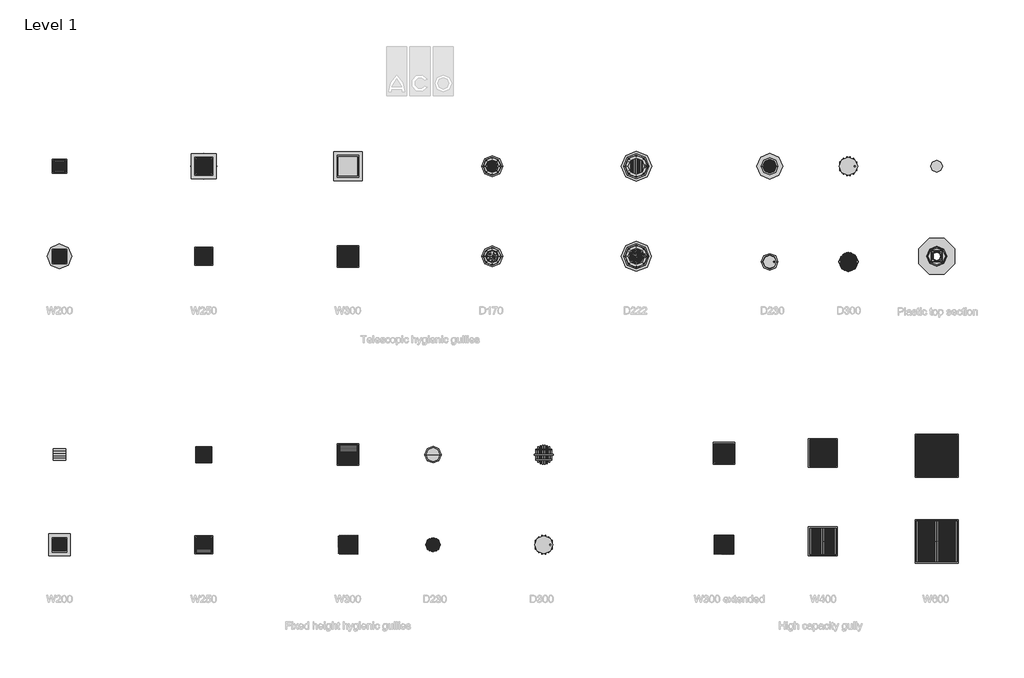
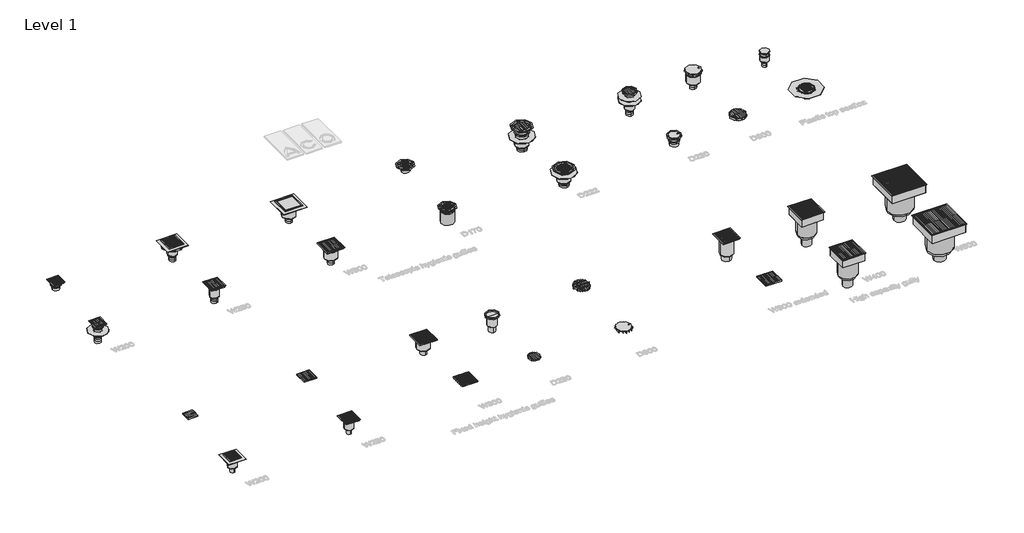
# One storey, part 1 of 5: 84 sanitary terminals, 1 damper.
"""IFC4 building model written with IfcOpenShell, lengths in millimetres."""

from ifc_helpers import new_model, si_unit, origin, place, context, project, spatial, transform, mapped, element, save
from components import std_nested_5fa89a83, sanitary_terminal_82e209ba, std_nested_0eeefa5e, std_nested_6499384f, std_nested_efb698b0, std_nested_4763630c, std_nested_b19227e2, std_nested_4e44c4c3, std_nested_489a93e3, std_nested_592c855f, std_nested_7deef7a1, std_nested_e0442021, std_nested_d5818558, std_nested_d116548a, std_nested_70ec9771, std_nested_57f2950a, std_nested_2ee354ad, std_nested_b8717db3, std_nested_406fe5f1, std_nested_98c6a3e6, std_nested_e2511e1a, std_nested_275881f0, std_nested_45a2f4f4, std_nested_918f101b, std_nested_27eed14b, std_nested_ff023d64, std_nested_d4b4db04, std_nested_1c124e65, std_nested_c48ed7b9, std_nested_3e81e737, std_nested_d3c4a1f5, std_nested_5fa55fd6, std_nested_ba545059, std_nested_f74d5a0c, std_nested_dd35c763, std_nested_3aef32b5, std_nested_7e2e888d, std_nested_04520186, std_nested_2d5d525a, std_nested_8b3f8c66, std_nested_b8d969d0, std_nested_69cb9c66, std_nested_0e59ff56, std_nested_2204cd7f, std_nested_bb84bd4d, std_nested_b2754624, std_nested_b7c3fa1a, std_nested_97aef0d8, std_nested_c1a20db4, std_nested_652eae4b, std_nested_9901e309, std_nested_b282f1d5, std_nested_8494176b, std_nested_cbf8674b, std_nested_f3fa0707, std_nested_9cee5a2e, std_nested_a31448ca, std_nested_245f124b

model = new_model("IFC4")

# Units and contexts
model_context = context("Model", 3, world=origin())
ifc_project = project(units=[si_unit("LENGTHUNIT", "METRE", prefix="MILLI")], contexts=[model_context])

# Site, building, storey
site = spatial("IfcSite", under=ifc_project)
building = spatial("IfcBuilding", under=site)
storey = spatial("IfcBuildingStorey", under=building, Name="Level 1", Elevation=0.0)

# Damper
placement = place(None, origin())
std_nested_shape = std_nested_5fa89a83(model_context)
element("IfcDamper", 1, ObjectType="ZZZ_do_not_use_PIA_GEN_UN_fire resistant kit for hygienic gullies_ACO : std (nested)", at=placement, inside=storey, context=model_context, shape_type="MappedRepresentation", body=[
    mapped(std_nested_shape, transform((2000.0, -1800.0, -60.0), x_axis=(1.0, 0.0, 0.0), y_axis=(0.0, 1.0, 0.0), z_axis=(0.0, 0.0, 1.0))),
])

# Sanitary terminals
sanitary_terminal_shape = sanitary_terminal_82e209ba(model_context)
element("IfcSanitaryTerminal", 2, ObjectType="PF_ST_UN_fixed height hygienic gully D230_ACO : D230 grade 1.4301 fixed-height round hygienic gully 157 outlet 110", at=placement, inside=storey, context=model_context, shape_type="MappedRepresentation", body=[
    mapped(sanitary_terminal_shape, transform((1180.0, -5800.0, 0.0), x_axis=(1.0, 0.0, 0.0), y_axis=(0.0, 1.0, 0.0), z_axis=(0.0, 0.0, 1.0))),
])
element("IfcSanitaryTerminal", 3, ObjectType="PF_ST_UN_fixed height hygienic gully D230_ACO : D230 grade 1.4404 fixed-height round hygienic gully 157 outlet 110", at=placement, inside=storey, context=model_context, shape_type="MappedRepresentation", body=[
    mapped(sanitary_terminal_shape, transform((1180.0, -4550.0, 0.0), x_axis=(1.0, 0.0, 0.0), y_axis=(0.0, 1.0, 0.0), z_axis=(0.0, 0.0, 1.0))),
])
element("IfcSanitaryTerminal", 4, ObjectType="PF_ST_UN_fixed height hygienic gully W200_ACO : W200 grade 1.4301 fixed height hygienic gully 142 outlet 75", at=placement, inside=storey, context=model_context, shape_type="MappedRepresentation", body=[
    mapped(sanitary_terminal_shape, transform((-4000.0, -4550.0, 0.0), x_axis=(1.0, 0.0, 0.0), y_axis=(0.0, 1.0, 0.0), z_axis=(0.0, 0.0, 1.0))),
])
element("IfcSanitaryTerminal", 5, ObjectType="PF_ST_UN_fixed height hygienic gully W200_ACO : W200 grade 1.4404 fixed height hygienic gully 157 outlet 75", at=placement, inside=storey, context=model_context, shape_type="MappedRepresentation", body=[
    mapped(sanitary_terminal_shape, transform((-4000.0, -5800.0, 0.0), x_axis=(1.0, 0.0, 0.0), y_axis=(0.0, 1.0, 0.0), z_axis=(0.0, 0.0, 1.0))),
])
element("IfcSanitaryTerminal", 6, ObjectType="PF_ST_UN_fixed height hygienic gully W250_ACO : W250 grade 1.4301 fixed height hygienic gully 157 outlet 75", at=placement, inside=storey, context=model_context, shape_type="MappedRepresentation", body=[
    mapped(sanitary_terminal_shape, transform((-2000.0, -5800.0, 0.0), x_axis=(1.0, 0.0, 0.0), y_axis=(0.0, 1.0, 0.0), z_axis=(0.0, 0.0, 1.0))),
])
element("IfcSanitaryTerminal", 7, ObjectType="PF_ST_UN_fixed height hygienic gully W250_ACO : W250 grade 1.4301 fixed height hygienic gully 157 outlet 75", at=placement, inside=storey, context=model_context, shape_type="MappedRepresentation", body=[
    mapped(sanitary_terminal_shape, transform((-2000.0, -4550.0, 0.0), x_axis=(1.0, 0.0, 0.0), y_axis=(0.0, 1.0, 0.0), z_axis=(0.0, 0.0, 1.0))),
])
element("IfcSanitaryTerminal", 8, ObjectType="PF_ST_UN_fixed height hygienic gully W300_ACO : W300 grade 1.4301 fixed height hygienic gully 218 outlet 110", at=placement, inside=storey, context=model_context, shape_type="MappedRepresentation", body=[
    mapped(sanitary_terminal_shape, transform((0.0, -5800.0, 0.0), x_axis=(1.0, 0.0, 0.0), y_axis=(0.0, 1.0, 0.0), z_axis=(0.0, 0.0, 1.0))),
])
element("IfcSanitaryTerminal", 9, ObjectType="PF_ST_UN_fixed height hygienic gully W300_ACO : W300 grade 1.4301 fixed height hygienic gully 218 outlet 110", at=placement, inside=storey, context=model_context, shape_type="MappedRepresentation", body=[
    mapped(sanitary_terminal_shape, transform((0.0, -4550.0, 0.0), x_axis=(1.0, 0.0, 0.0), y_axis=(0.0, 1.0, 0.0), z_axis=(0.0, 0.0, 1.0))),
])
element("IfcSanitaryTerminal", 10, ObjectType="PF_ST_UN_hygienic high capacity gully 315_ACO : W400 grade 1.4301 hygienic high capacity gully outlet 160", at=placement, inside=storey, context=model_context, shape_type="MappedRepresentation", body=[
    mapped(sanitary_terminal_shape, transform((6587.2821373, -5752.5332662, 0.0), x_axis=(1.0, 0.0, 0.0), y_axis=(0.0, 1.0, 0.0), z_axis=(0.0, 0.0, 1.0))),
])
element("IfcSanitaryTerminal", 11, ObjectType="PF_ST_UN_hygienic high capacity gully 315_ACO : W400 grade 1.4404 hygienic high capacity gully outlet 160", at=placement, inside=storey, context=model_context, shape_type="MappedRepresentation", body=[
    mapped(sanitary_terminal_shape, transform((6587.2821373, -4526.1719656, 0.0), x_axis=(1.0, 0.0, 0.0), y_axis=(0.0, 1.0, 0.0), z_axis=(0.0, 0.0, 1.0))),
])
element("IfcSanitaryTerminal", 12, ObjectType="PF_ST_UN_hygienic high capacity gully_ACO : W600 grade 1.4301 hygienic high capacity gully outlet 200", at=placement, inside=storey, context=model_context, shape_type="MappedRepresentation", body=[
    mapped(sanitary_terminal_shape, transform((8164.9259852, -5752.5332662, 0.0), x_axis=(1.0, 0.0, 0.0), y_axis=(0.0, 1.0, 0.0), z_axis=(0.0, 0.0, 1.0))),
])
element("IfcSanitaryTerminal", 13, ObjectType="PF_ST_UN_hygienic high capacity gully_ACO : W600 grade 1.4404 hygienic high capacity gully outlet 200", at=placement, inside=storey, context=model_context, shape_type="MappedRepresentation", body=[
    mapped(sanitary_terminal_shape, transform((8164.9259852, -4563.6158867, 0.0), x_axis=(1.0, 0.0, 0.0), y_axis=(0.0, 1.0, 0.0), z_axis=(0.0, 0.0, 1.0))),
])
std_nested_2_shape = std_nested_0eeefa5e(model_context)
element("IfcSanitaryTerminal", 14, ObjectType="ZZZ_do not use_PF_ST_UN_round grating for vinyl top_ACO : std (nested)", at=placement, inside=storey, context=model_context, shape_type="MappedRepresentation", body=[
    mapped(std_nested_2_shape, transform((2000.0, -1800.0, 0.0), x_axis=(1.0, 0.0, 0.0), y_axis=(0.0, 1.0, 0.0), z_axis=(0.0, 0.0, 1.0))),
])
std_nested_3_shape = std_nested_6499384f(model_context)
element("IfcSanitaryTerminal", 15, ObjectType="ZZZ_do not use_PF_ST_UN_round grating for vinyl top_ACO : std (nested)", at=placement, inside=storey, context=model_context, shape_type="MappedRepresentation", body=[
    mapped(std_nested_3_shape, transform((4000.0, -1800.0, 0.0), x_axis=(1.0, 0.0, 0.0), y_axis=(0.0, 1.0, 0.0), z_axis=(0.0, 0.0, 1.0))),
])
std_nested_4_shape = std_nested_efb698b0(model_context)
element("IfcSanitaryTerminal", 16, ObjectType="ZZZ_do not use_PF_ST_UN_round grating for vinyl top_ACO : std (nested)", at=placement, inside=storey, context=model_context, shape_type="MappedRepresentation", body=[
    mapped(std_nested_4_shape, transform((2000.0, -550.0, 0.0), x_axis=(1.0, 0.0, 0.0), y_axis=(0.0, 1.0, 0.0), z_axis=(0.0, 0.0, 1.0))),
])
std_nested_5_shape = std_nested_4763630c(model_context)
element("IfcSanitaryTerminal", 17, ObjectType="ZZZ_do not use_PF_ST_UN_round grating for vinyl top_ACO : std (nested)", at=placement, inside=storey, context=model_context, shape_type="MappedRepresentation", body=[
    mapped(std_nested_5_shape, transform((4000.0, -550.0, 0.0), x_axis=(1.0, 0.0, 0.0), y_axis=(0.0, 1.0, 0.0), z_axis=(0.0, 0.0, 1.0))),
])
std_nested_6_shape = std_nested_b19227e2(model_context)
element("IfcSanitaryTerminal", 18, ObjectType="ZZZ_do not use_PF_ST_UN_telescopic gully top_ACO : std (nested)", at=placement, inside=storey, context=model_context, shape_type="MappedRepresentation", body=[
    mapped(std_nested_6_shape, transform((-4000.0, -1800.0, 0.0), x_axis=(1.0, 0.0, 0.0), y_axis=(0.0, 1.0, 0.0), z_axis=(0.0, 0.0, 1.0))),
])
std_nested_7_shape = std_nested_4e44c4c3(model_context)
element("IfcSanitaryTerminal", 19, ObjectType="ZZZ_do not use_PF_ST_UN_telescopic gully top_ACO : std (nested)", at=placement, inside=storey, context=model_context, shape_type="MappedRepresentation", body=[
    mapped(std_nested_7_shape, transform((-2000.0, -1800.0, 0.0), x_axis=(1.0, 0.0, 0.0), y_axis=(0.0, 1.0, 0.0), z_axis=(0.0, 0.0, 1.0))),
])
std_nested_8_shape = std_nested_489a93e3(model_context)
element("IfcSanitaryTerminal", 20, ObjectType="ZZZ_do not use_PF_ST_UN_telescopic gully top_ACO : std (nested)", at=placement, inside=storey, context=model_context, shape_type="MappedRepresentation", body=[
    mapped(std_nested_8_shape, transform((0.0, -1800.0, 0.0), x_axis=(1.0, 0.0, 0.0), y_axis=(0.0, 1.0, 0.0), z_axis=(0.0, 0.0, 1.0))),
])
element("IfcSanitaryTerminal", 21, ObjectType="ZZZ_do not use_PF_ST_UN_telescopic gully top_ACO : std (nested)", at=placement, inside=storey, context=model_context, shape_type="MappedRepresentation", body=[
    mapped(std_nested_6_shape, transform((-4000.0, -550.0, 0.0), x_axis=(1.0, 0.0, 0.0), y_axis=(0.0, 1.0, 0.0), z_axis=(0.0, 0.0, 1.0))),
])
std_nested_9_shape = std_nested_592c855f(model_context)
element("IfcSanitaryTerminal", 22, ObjectType="ZZZ_do not use_PF_ST_UN_telescopic gully top_ACO : std (nested)", at=placement, inside=storey, context=model_context, shape_type="MappedRepresentation", body=[
    mapped(std_nested_9_shape, transform((-2000.0, -550.0, 0.0), x_axis=(1.0, 0.0, 0.0), y_axis=(0.0, 1.0, 0.0), z_axis=(0.0, 0.0, 1.0))),
])
std_nested_10_shape = std_nested_7deef7a1(model_context)
element("IfcSanitaryTerminal", 23, ObjectType="ZZZ_do not use_PF_ST_UN_telescopic gully top_ACO : std (nested)", at=placement, inside=storey, context=model_context, shape_type="MappedRepresentation", body=[
    mapped(std_nested_10_shape, transform((0.0, -550.0, 0.0), x_axis=(1.0, 0.0, 0.0), y_axis=(0.0, 1.0, 0.0), z_axis=(0.0, 0.0, 1.0))),
])
std_nested_11_shape = std_nested_e0442021(model_context)
element("IfcSanitaryTerminal", 24, ObjectType="ZZZ_do not use_PF_ST_UN_telescopic hygienic gully_ACO : std (nested)", at=placement, inside=storey, context=model_context, shape_type="MappedRepresentation", body=[
    mapped(std_nested_11_shape, transform((-4000.0, -1800.0, -139.5), x_axis=(0.7071067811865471, 0.7071067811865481, 0.0), y_axis=(-0.7071067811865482, 0.7071067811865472, 0.0), z_axis=(0.0, 0.0, 1.0000000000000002))),
])
std_nested_12_shape = std_nested_d5818558(model_context)
element("IfcSanitaryTerminal", 25, ObjectType="ZZZ_do not use_PF_ST_UN_telescopic hygienic gully_ACO : std (nested)", at=placement, inside=storey, context=model_context, shape_type="MappedRepresentation", body=[
    mapped(std_nested_12_shape, transform((-2000.0, -1800.0, -56.5), x_axis=(1.0, 0.0, 0.0), y_axis=(0.0, 1.0, 0.0), z_axis=(0.0, 0.0, 1.0))),
])
std_nested_13_shape = std_nested_d116548a(model_context)
element("IfcSanitaryTerminal", 26, ObjectType="ZZZ_do not use_PF_ST_UN_telescopic hygienic gully_ACO : std (nested)", at=placement, inside=storey, context=model_context, shape_type="MappedRepresentation", body=[
    mapped(std_nested_13_shape, transform((0.0, -1800.0, -56.5), x_axis=(1.0, 0.0, 0.0), y_axis=(0.0, 1.0, 0.0), z_axis=(0.0, 0.0, 1.0))),
])
element("IfcSanitaryTerminal", 27, ObjectType="ZZZ_do not use_PF_ST_UN_telescopic hygienic gully_ACO : std (nested)", at=placement, inside=storey, context=model_context, shape_type="MappedRepresentation", body=[
    mapped(std_nested_13_shape, transform((0.0, -550.0, -57.5), x_axis=(1.0, 0.0, 0.0), y_axis=(0.0, 1.0, 0.0), z_axis=(0.0, 0.0, 1.0))),
])
std_nested_14_shape = std_nested_70ec9771(model_context)
element("IfcSanitaryTerminal", 28, ObjectType="ZZZ_do not use_PF_ST_UN_telescopic hygienic gully_ACO : std (nested)", at=placement, inside=storey, context=model_context, shape_type="MappedRepresentation", body=[
    mapped(std_nested_14_shape, transform((2000.0, -1800.0, -58.5), x_axis=(1.0, 0.0, 0.0), y_axis=(0.0, 1.0, 0.0), z_axis=(0.0, 0.0, 1.0))),
])
std_nested_15_shape = std_nested_57f2950a(model_context)
element("IfcSanitaryTerminal", 29, ObjectType="ZZZ_do not use_PF_ST_UN_telescopic hygienic gully_ACO : std (nested)", at=placement, inside=storey, context=model_context, shape_type="MappedRepresentation", body=[
    mapped(std_nested_15_shape, transform((-2000.0, -550.0, -56.5), x_axis=(1.0, 0.0, 0.0), y_axis=(0.0, 1.0, 0.0), z_axis=(0.0, 0.0, 1.0))),
])
std_nested_16_shape = std_nested_2ee354ad(model_context)
element("IfcSanitaryTerminal", 30, ObjectType="ZZZ_do not use_PF_ST_UN_telescopic hygienic gully_ACO : std (nested)", at=placement, inside=storey, context=model_context, shape_type="MappedRepresentation", body=[
    mapped(std_nested_16_shape, transform((4000.0, -550.0, -173.0), x_axis=(1.0, 0.0, 0.0), y_axis=(0.0, 1.0, 0.0), z_axis=(0.0, 0.0, 1.0))),
])
std_nested_17_shape = std_nested_b8717db3(model_context)
element("IfcSanitaryTerminal", 31, ObjectType="ZZZ_do not use_PF_ST_UN_telescopic hygienic gully_ACO : std (nested)", at=placement, inside=storey, context=model_context, shape_type="MappedRepresentation", body=[
    mapped(std_nested_17_shape, transform((8164.9259852, -550.0, -160.5), x_axis=(1.0, 0.0, 0.0), y_axis=(0.0, 1.0, 0.0), z_axis=(0.0, 0.0, 1.0))),
])
std_nested_18_shape = std_nested_406fe5f1(model_context)
element("IfcSanitaryTerminal", 32, ObjectType="ZZZ_do not use_PF_ST_UN_raising piece telescopic hygienic gully_ACO : std (nested)", at=placement, inside=storey, context=model_context, shape_type="MappedRepresentation", body=[
    mapped(std_nested_18_shape, transform((-4000.0, -1800.0, -71.0), x_axis=(0.0, -1.0, 0.0), y_axis=(1.0, 0.0, 0.0), z_axis=(0.0, 0.0, 1.0))),
])
element("IfcSanitaryTerminal", 33, ObjectType="ZZZ_do not use_PF_ST_UN_raising piece telescopic hygienic gully_ACO : std (nested)", at=placement, inside=storey, context=model_context, shape_type="MappedRepresentation", body=[
    mapped(std_nested_18_shape, transform((8164.9259852, -550.0, -92.0), x_axis=(1.0, 0.0, 0.0), y_axis=(0.0, 1.0, 0.0), z_axis=(0.0, 0.0, 1.0))),
])
element("IfcSanitaryTerminal", 34, ObjectType="ZZZ_do not use_PF_ST_UN_raising piece telescopic hygienic gully_ACO : std (nested)", at=placement, inside=storey, context=model_context, shape_type="MappedRepresentation", body=[
    mapped(std_nested_18_shape, transform((-4000.0, -550.0, -71.0), x_axis=(0.0, -1.0, 0.0), y_axis=(1.0, 0.0, 0.0), z_axis=(0.0, 0.0, 1.0))),
])
std_nested_19_shape = std_nested_98c6a3e6(model_context)
element("IfcSanitaryTerminal", 35, ObjectType="ZZZ_do not use_PF_ST_UN_raising piece telescopic hygienic gully_ACO : std (nested)", at=placement, inside=storey, context=model_context, shape_type="MappedRepresentation", body=[
    mapped(std_nested_19_shape, transform((4000.0, -550.0, -92.0), x_axis=(0.0, -1.0, 0.0), y_axis=(1.0, 0.0, 0.0), z_axis=(0.0, 0.0, 1.0))),
])
std_nested_20_shape = std_nested_e2511e1a(model_context)
element("IfcSanitaryTerminal", 36, ObjectType="ZZZ_do not use_PF_GEN_UN_telescopic plastic gully top_ACO : std (nested)", at=placement, inside=storey, context=model_context, shape_type="MappedRepresentation", body=[
    mapped(std_nested_20_shape, transform((8164.9259852, -1800.0, 0.0), x_axis=(1.0, 0.0, 0.0), y_axis=(0.0, 1.0, 0.0), z_axis=(0.0, 0.0, 1.0))),
])
std_nested_21_shape = std_nested_275881f0(model_context)
element("IfcSanitaryTerminal", 37, ObjectType="ZZZ_do not use_PF_GEN_UN_round telescopic gully top_ACO : std (nested)", at=placement, inside=storey, context=model_context, shape_type="MappedRepresentation", body=[
    mapped(std_nested_21_shape, transform((2000.0, -1800.0, 0.0), x_axis=(1.0, 0.0, 0.0), y_axis=(0.0, 1.0, 0.0), z_axis=(0.0, 0.0, 1.0))),
])
std_nested_22_shape = std_nested_45a2f4f4(model_context)
element("IfcSanitaryTerminal", 38, ObjectType="ZZZ_do not use_PF_GEN_UN_round telescopic gully top_ACO : std (nested)", at=placement, inside=storey, context=model_context, shape_type="MappedRepresentation", body=[
    mapped(std_nested_22_shape, transform((4000.0, -1800.0, 0.0), x_axis=(1.0, 0.0, 0.0), y_axis=(0.0, 1.0, 0.0), z_axis=(0.0, 0.0, 1.0))),
])
element("IfcSanitaryTerminal", 39, ObjectType="ZZZ_do not use_PF_GEN_UN_round telescopic gully top_ACO : std (nested)", at=placement, inside=storey, context=model_context, shape_type="MappedRepresentation", body=[
    mapped(std_nested_21_shape, transform((2000.0, -550.0, 0.0), x_axis=(1.0, 0.0, 0.0), y_axis=(0.0, 1.0, 0.0), z_axis=(0.0, 0.0, 1.0))),
])
element("IfcSanitaryTerminal", 40, ObjectType="ZZZ_do not use_PF_GEN_UN_round telescopic gully top_ACO : std (nested)", at=placement, inside=storey, context=model_context, shape_type="MappedRepresentation", body=[
    mapped(std_nested_22_shape, transform((4000.0, -550.0, 0.0), x_axis=(1.0, 0.0, 0.0), y_axis=(0.0, 1.0, 0.0), z_axis=(0.0, 0.0, 1.0))),
])
std_nested_23_shape = std_nested_918f101b(model_context)
element("IfcSanitaryTerminal", 41, ObjectType="ZZZ_do not use_PF_ST_UN_raising piece telescopic hygienic gully_ACO : std (nested)", at=placement, inside=storey, context=model_context, shape_type="MappedRepresentation", body=[
    mapped(std_nested_23_shape, transform((5849.1277911, -549.8309408, -84.0), x_axis=(0.0, -1.0, 0.0), y_axis=(1.0, 0.0, 0.0), z_axis=(0.0, 0.0, 1.0))),
])
std_nested_24_shape = std_nested_27eed14b(model_context)
element("IfcSanitaryTerminal", 42, ObjectType="ZZZ_do not use_PF_ST_UN_raising piece telescopic hygienic gully_ACO : std (nested)", at=placement, inside=storey, context=model_context, shape_type="MappedRepresentation", body=[
    mapped(std_nested_24_shape, transform((5849.1277911, -1875.8999063, -84.0), x_axis=(0.0, -1.0, 0.0), y_axis=(1.0, 0.0, 0.0), z_axis=(0.0, 0.0, 1.0))),
])
element("IfcSanitaryTerminal", 43, ObjectType="ZZZ_do not use_PF_ST_UN_telescopic hygienic gully_ACO : std (nested)", at=placement, inside=storey, context=model_context, shape_type="MappedRepresentation", body=[
    mapped(std_nested_15_shape, transform((5849.1277911, -549.8309408, -163.5), x_axis=(1.0, 0.0, 0.0), y_axis=(0.0, 1.0, 0.0), z_axis=(0.0, 0.0, 1.0))),
])
std_nested_25_shape = std_nested_ff023d64(model_context)
element("IfcSanitaryTerminal", 44, ObjectType="ZZZ_do not use_PF_ST_UN_fixed height hygienic gully_ACO : std (nested)", at=placement, inside=storey, context=model_context, shape_type="MappedRepresentation", body=[
    mapped(std_nested_25_shape, transform((-4000.0, -5800.0, 0.0), x_axis=(1.0, 0.0, 0.0), y_axis=(0.0, 1.0, 0.0), z_axis=(0.0, 0.0, 1.0))),
])
std_nested_26_shape = std_nested_d4b4db04(model_context)
element("IfcSanitaryTerminal", 45, ObjectType="ZZZ_do not use_PF_ST_UN_fixed height hygienic gully_ACO : std (nested)", at=placement, inside=storey, context=model_context, shape_type="MappedRepresentation", body=[
    mapped(std_nested_26_shape, transform((-2000.0, -5800.0, 0.0), x_axis=(1.0, 0.0, 0.0), y_axis=(0.0, 1.0, 0.0), z_axis=(0.0, 0.0, 1.0))),
])
std_nested_27_shape = std_nested_1c124e65(model_context)
element("IfcSanitaryTerminal", 46, ObjectType="ZZZ_do not use_PF_ST_UN_fixed height hygienic gully_ACO : std (nested)", at=placement, inside=storey, context=model_context, shape_type="MappedRepresentation", body=[
    mapped(std_nested_27_shape, transform((0.0, -4550.0, 0.0), x_axis=(1.0, 0.0, 0.0), y_axis=(0.0, 1.0, 0.0), z_axis=(0.0, 0.0, 1.0))),
])
std_nested_28_shape = std_nested_c48ed7b9(model_context)
element("IfcSanitaryTerminal", 47, ObjectType="ZZZ_do not use_PF_ST_UN_telescopic hygienic gully_ACO : std (nested)", at=placement, inside=storey, context=model_context, shape_type="MappedRepresentation", body=[
    mapped(std_nested_28_shape, transform((4000.0, -1800.0, -61.0), x_axis=(1.0, 0.0, 0.0), y_axis=(0.0, 1.0, 0.0), z_axis=(0.0, 0.0, 1.0))),
])
std_nested_29_shape = std_nested_3e81e737(model_context)
element("IfcSanitaryTerminal", 48, ObjectType="ZZZ_do not use_PF_ST_UN_square grating for hygienic gully_ACO : std (nested)", at=placement, inside=storey, context=model_context, shape_type="MappedRepresentation", body=[
    mapped(std_nested_29_shape, transform((0.0, -5800.0, 0.0), x_axis=(1.0, 0.0, 0.0), y_axis=(0.0, 1.0, 0.0), z_axis=(0.0, 0.0, 1.0))),
])
std_nested_30_shape = std_nested_d3c4a1f5(model_context)
element("IfcSanitaryTerminal", 49, ObjectType="ZZZ_do not use_PF_ST_UN_square grating for hygienic gully_ACO : std (nested)", at=placement, inside=storey, context=model_context, shape_type="MappedRepresentation", body=[
    mapped(std_nested_30_shape, transform((5216.8843964, -4530.773318, 0.0), x_axis=(1.0, 0.0, 0.0), y_axis=(0.0, 1.0, 0.0), z_axis=(0.0, 0.0, 1.0))),
])
std_nested_31_shape = std_nested_5fa55fd6(model_context)
element("IfcSanitaryTerminal", 50, ObjectType="ZZZ_do not use_PF_ST_UN_grating for high capacity gully_ACO : std (nested)", at=placement, inside=storey, context=model_context, shape_type="MappedRepresentation", body=[
    mapped(std_nested_31_shape, transform((8022.9259852, -4563.6158867, 0.0), x_axis=(1.0, 0.0, 0.0), y_axis=(0.0, 1.0, 0.0), z_axis=(0.0, 0.0, 1.0))),
])
std_nested_32_shape = std_nested_ba545059(model_context)
element("IfcSanitaryTerminal", 51, ObjectType="ZZZ_do not use_PF_ST_UN_grating for high capacity gully_ACO : std (nested)", at=placement, inside=storey, context=model_context, shape_type="MappedRepresentation", body=[
    mapped(std_nested_32_shape, transform((8306.9259852, -4563.6158867, 0.0), x_axis=(-1.0, 0.0, 0.0), y_axis=(0.0, -1.0, 0.0), z_axis=(0.0, 0.0, 1.0))),
])
std_nested_33_shape = std_nested_f74d5a0c(model_context)
element("IfcSanitaryTerminal", 52, ObjectType="ZZZ_do not use_PF_ST_UN_grating for high capacity gully_ACO : std (nested)", at=placement, inside=storey, context=model_context, shape_type="MappedRepresentation", body=[
    mapped(std_nested_33_shape, transform((6495.2821373, -5752.5332662, 0.0), x_axis=(1.0, 0.0, 0.0), y_axis=(0.0, 1.0, 0.0), z_axis=(0.0, 0.0, 1.0))),
])
std_nested_34_shape = std_nested_dd35c763(model_context)
element("IfcSanitaryTerminal", 53, ObjectType="ZZZ_do not use_PF_ST_UN_grating for high capacity gully_ACO : std (nested)", at=placement, inside=storey, context=model_context, shape_type="MappedRepresentation", body=[
    mapped(std_nested_34_shape, transform((6679.2821373, -5752.5332662, 0.0), x_axis=(-1.0, 0.0, 0.0), y_axis=(0.0, -1.0, 0.0), z_axis=(0.0, 0.0, 1.0))),
])
std_nested_35_shape = std_nested_3aef32b5(model_context)
element("IfcSanitaryTerminal", 54, ObjectType="ZZZ_do not use_PF_ST_UN_grating for high capacity gully_ACO : std (nested)", at=placement, inside=storey, context=model_context, shape_type="MappedRepresentation", body=[
    mapped(std_nested_35_shape, transform((8022.9259852, -5752.5332662, 0.0), x_axis=(1.0, 0.0, 0.0), y_axis=(0.0, 1.0, 0.0), z_axis=(0.0, 0.0, 1.0))),
])
std_nested_36_shape = std_nested_7e2e888d(model_context)
element("IfcSanitaryTerminal", 55, ObjectType="ZZZ_do not use_PF_ST_UN_grating for high capacity gully_ACO : std (nested)", at=placement, inside=storey, context=model_context, shape_type="MappedRepresentation", body=[
    mapped(std_nested_36_shape, transform((8306.9259852, -5752.5332662, 0.0), x_axis=(-1.0, 0.0, 0.0), y_axis=(0.0, -1.0, 0.0), z_axis=(0.0, 0.0, 1.0))),
])
std_nested_37_shape = std_nested_04520186(model_context)
element("IfcSanitaryTerminal", 56, ObjectType="ZZZ_do not use_PF_ST_UN_grating for high capacity gully_ACO : std (nested)", at=placement, inside=storey, context=model_context, shape_type="MappedRepresentation", body=[
    mapped(std_nested_37_shape, transform((6495.2821373, -4526.1719656, 0.0), x_axis=(1.0, 0.0, 0.0), y_axis=(0.0, 1.0, 0.0), z_axis=(0.0, 0.0, 1.0))),
])
std_nested_38_shape = std_nested_2d5d525a(model_context)
element("IfcSanitaryTerminal", 57, ObjectType="ZZZ_do not use_PF_ST_UN_grating for high capacity gully_ACO : std (nested)", at=placement, inside=storey, context=model_context, shape_type="MappedRepresentation", body=[
    mapped(std_nested_38_shape, transform((6679.2821373, -4526.1719656, 0.0), x_axis=(-1.0, 0.0, 0.0), y_axis=(0.0, -1.0, 0.0), z_axis=(0.0, 0.0, 1.0))),
])
std_nested_39_shape = std_nested_8b3f8c66(model_context)
element("IfcSanitaryTerminal", 58, ObjectType="ZZZ_do not use_PF_ST_UN_high capacity gully_ACO : std (nested)", at=placement, inside=storey, context=model_context, shape_type="MappedRepresentation", body=[
    mapped(std_nested_39_shape, transform((8164.9259852, -5752.5332662, 0.0), x_axis=(1.0, 0.0, 0.0), y_axis=(0.0, 1.0, 0.0), z_axis=(0.0, 0.0, 1.0))),
])
element("IfcSanitaryTerminal", 59, ObjectType="ZZZ_do not use_PF_ST_UN_high capacity gully_ACO : std (nested)", at=placement, inside=storey, context=model_context, shape_type="MappedRepresentation", body=[
    mapped(std_nested_39_shape, transform((8164.9259852, -4563.6158867, 0.0), x_axis=(1.0, 0.0, 0.0), y_axis=(0.0, 1.0, 0.0), z_axis=(0.0, 0.0, 1.0))),
])
std_nested_40_shape = std_nested_b8d969d0(model_context)
element("IfcSanitaryTerminal", 60, ObjectType="ZZZ_do not use_PF_ST_UN_high capacity gully_ACO : std (nested)", at=placement, inside=storey, context=model_context, shape_type="MappedRepresentation", body=[
    mapped(std_nested_40_shape, transform((6587.2821373, -4526.1719656, 0.0), x_axis=(1.0, 0.0, 0.0), y_axis=(0.0, 1.0, 0.0), z_axis=(0.0, 0.0, 1.0))),
])
element("IfcSanitaryTerminal", 61, ObjectType="ZZZ_do not use_PF_ST_UN_high capacity gully_ACO : std (nested)", at=placement, inside=storey, context=model_context, shape_type="MappedRepresentation", body=[
    mapped(std_nested_40_shape, transform((6587.2821373, -5752.5332662, 0.0), x_axis=(1.0, 0.0, 0.0), y_axis=(0.0, 1.0, 0.0), z_axis=(0.0, 0.0, 1.0))),
])
std_nested_41_shape = std_nested_69cb9c66(model_context)
element("IfcSanitaryTerminal", 62, ObjectType="ZZZ_do not use_PF_ST_UN_extended fixed height hygienic gully W300_ACO : std (nested)", at=placement, inside=storey, context=model_context, shape_type="MappedRepresentation", body=[
    mapped(std_nested_41_shape, transform((5216.8843964, -4530.773318, 0.0), x_axis=(1.0, 0.0, 0.0), y_axis=(0.0, 1.0, 0.0), z_axis=(0.0, 0.0, 1.0))),
])
std_nested_42_shape = std_nested_0e59ff56(model_context)
element("IfcSanitaryTerminal", 63, ObjectType="ZZZ_do not use_PF_ST_UN_fixed height round hygienic gully_ACO : std (nested)", at=placement, inside=storey, context=model_context, shape_type="MappedRepresentation", body=[
    mapped(std_nested_42_shape, transform((1180.0, -4550.0, 0.0), x_axis=(1.0, 0.0, 0.0), y_axis=(0.0, 1.0, 0.0), z_axis=(0.0, 0.0, 1.0))),
])
std_nested_43_shape = std_nested_2204cd7f(model_context)
element("IfcSanitaryTerminal", 64, ObjectType="ZZZ_do not use_PF_ST_UN_round grating for hygienic gully_ACO : std (nested)", at=placement, inside=storey, context=model_context, shape_type="MappedRepresentation", body=[
    mapped(std_nested_43_shape, transform((5849.1277911, -549.8309408, 0.0), x_axis=(1.0, 0.0, 0.0), y_axis=(0.0, 1.0, 0.0), z_axis=(0.0, 0.0, 1.0))),
])
element("IfcSanitaryTerminal", 65, ObjectType="ZZZ_do not use_PF_ST_UN_round grating for hygienic gully_ACO : std (nested)", at=placement, inside=storey, context=model_context, shape_type="MappedRepresentation", body=[
    mapped(std_nested_43_shape, transform((1180.0, -5800.0, 0.0), x_axis=(1.0, 0.0, 0.0), y_axis=(0.0, 1.0, 0.0), z_axis=(0.0, 0.0, 1.0))),
])
std_nested_44_shape = std_nested_bb84bd4d(model_context)
element("IfcSanitaryTerminal", 66, ObjectType="ZZZ_do not use_PF_ST_UN_round grating for hygienic gully_ACO : std (nested)", at=placement, inside=storey, context=model_context, shape_type="MappedRepresentation", body=[
    mapped(std_nested_44_shape, transform((5849.1277911, -1875.8999063, 0.0), x_axis=(1.0, 0.0, 0.0), y_axis=(0.0, 1.0, 0.0), z_axis=(0.0, 0.0, 1.0))),
])
std_nested_45_shape = std_nested_b2754624(model_context)
element("IfcSanitaryTerminal", 67, ObjectType="ZZZ_do not use_PF_ST_UN_round grating for hygienic gully_ACO : std (nested)", at=placement, inside=storey, context=model_context, shape_type="MappedRepresentation", body=[
    mapped(std_nested_45_shape, transform((2715.7025401, -5800.0, 0.0), x_axis=(1.0, 0.0, 0.0), y_axis=(0.0, 1.0, 0.0), z_axis=(0.0, 0.0, 1.0))),
])
std_nested_46_shape = std_nested_b7c3fa1a(model_context)
element("IfcSanitaryTerminal", 68, ObjectType="ZZZ_do not use_PF_ST_UN_round grating for hygienic gully_ACO : std (nested)", at=placement, inside=storey, context=model_context, shape_type="MappedRepresentation", body=[
    mapped(std_nested_46_shape, transform((2715.7025401, -4550.0, 0.0), x_axis=(1.0, 0.0, 0.0), y_axis=(0.0, 1.0, 0.0), z_axis=(0.0, 0.0, 1.0))),
])
std_nested_47_shape = std_nested_97aef0d8(model_context)
element("IfcSanitaryTerminal", 69, ObjectType="ZZZ_do not use_PF_ST_UN_square grating for hygienic gully_ACO : std (nested)", at=placement, inside=storey, context=model_context, shape_type="MappedRepresentation", body=[
    mapped(std_nested_47_shape, transform((-2000.0, -4550.0, 0.0), x_axis=(1.0, 0.0, 0.0), y_axis=(0.0, 1.0, 0.0), z_axis=(0.0, 0.0, 1.0))),
])
std_nested_48_shape = std_nested_c1a20db4(model_context)
element("IfcSanitaryTerminal", 70, ObjectType="ZZZ_do not use_PF_ST_UN_square grating for hygienic gully_ACO : std (nested)", at=placement, inside=storey, context=model_context, shape_type="MappedRepresentation", body=[
    mapped(std_nested_48_shape, transform((-2000.0, -5800.0, 0.0), x_axis=(1.0, 0.0, 0.0), y_axis=(0.0, 1.0, 0.0), z_axis=(0.0, 0.0, 1.0))),
])
std_nested_49_shape = std_nested_652eae4b(model_context)
element("IfcSanitaryTerminal", 71, ObjectType="ZZZ_do not use_PF_ST_UN_round grating for hygienic gully_ACO : std (nested)", at=placement, inside=storey, context=model_context, shape_type="MappedRepresentation", body=[
    mapped(std_nested_49_shape, transform((6941.3580383, -1875.8999063, 0.0), x_axis=(1.0, 0.0, 0.0), y_axis=(0.0, 1.0, 0.0), z_axis=(0.0, 0.0, 1.0))),
])
std_nested_50_shape = std_nested_9901e309(model_context)
element("IfcSanitaryTerminal", 72, ObjectType="ZZZ_do not use_PF_ST_UN_telescopic gully top round_ACO : std (nested)", at=placement, inside=storey, context=model_context, shape_type="MappedRepresentation", body=[
    mapped(std_nested_50_shape, transform((5849.1277911, -1875.8999063, 0.0), x_axis=(1.0, 0.0, 0.0), y_axis=(0.0, 1.0, 0.0), z_axis=(0.0, 0.0, 1.0))),
])
element("IfcSanitaryTerminal", 73, ObjectType="ZZZ_do not use_PF_ST_UN_telescopic gully top round_ACO : std (nested)", at=placement, inside=storey, context=model_context, shape_type="MappedRepresentation", body=[
    mapped(std_nested_50_shape, transform((5849.1277911, -549.8309408, 0.0), x_axis=(1.0, 0.0, 0.0), y_axis=(0.0, 1.0, 0.0), z_axis=(0.0, 0.0, 1.0))),
])
element("IfcSanitaryTerminal", 74, ObjectType="ZZZ_do not use_PF_ST_UN_telescopic hygienic gully_ACO : std (nested)", at=placement, inside=storey, context=model_context, shape_type="MappedRepresentation", body=[
    mapped(std_nested_13_shape, transform((6941.3580383, -549.8309408, -61.0), x_axis=(1.0, 0.0, 0.0), y_axis=(0.0, 1.0, 0.0), z_axis=(0.0, 0.0, 1.0))),
])
element("IfcSanitaryTerminal", 75, ObjectType="ZZZ_do not use_PF_ST_UN_round grating for hygienic gully_ACO : std (nested)", at=placement, inside=storey, context=model_context, shape_type="MappedRepresentation", body=[
    mapped(std_nested_45_shape, transform((6941.3580383, -549.8309408, 0.0), x_axis=(1.0, 0.0, 0.0), y_axis=(0.0, 1.0, 0.0), z_axis=(0.0, 0.0, 1.0))),
])
std_nested_51_shape = std_nested_b282f1d5(model_context)
element("IfcSanitaryTerminal", 76, ObjectType="ZZZ_do not use_PF_ST_UN_square grating for hygienic gully_ACO : std (nested)", at=placement, inside=storey, context=model_context, shape_type="MappedRepresentation", body=[
    mapped(std_nested_51_shape, transform((-4000.0, -5800.0, 0.0), x_axis=(1.0, 0.0, 0.0), y_axis=(0.0, 1.0, 0.0), z_axis=(0.0, 0.0, 1.0))),
])
std_nested_52_shape = std_nested_8494176b(model_context)
element("IfcSanitaryTerminal", 77, ObjectType="ZZZ_do not use_PF_ST_UN_square grating for hygienic gully_ACO : std (nested)", at=placement, inside=storey, context=model_context, shape_type="MappedRepresentation", body=[
    mapped(std_nested_52_shape, transform((-4000.0, -4550.0, 0.0), x_axis=(1.0, 0.0, 0.0), y_axis=(0.0, 1.0, 0.0), z_axis=(0.0, 0.0, 1.0))),
])
std_nested_53_shape = std_nested_cbf8674b(model_context)
element("IfcSanitaryTerminal", 78, ObjectType="ZZZ_do not use_PF_ST_UN_square grating for hygienic gully_ACO : std (nested)", at=placement, inside=storey, context=model_context, shape_type="MappedRepresentation", body=[
    mapped(std_nested_53_shape, transform((0.0, -4550.0, 0.0), x_axis=(1.0, 0.0, 0.0), y_axis=(0.0, 1.0, 0.0), z_axis=(0.0, 0.0, 1.0))),
])
std_nested_54_shape = std_nested_f3fa0707(model_context)
element("IfcSanitaryTerminal", 79, ObjectType="ZZZ_do not use_PF_ST_UN_square grating for hygienic gully_ACO : std (nested)", at=placement, inside=storey, context=model_context, shape_type="MappedRepresentation", body=[
    mapped(std_nested_54_shape, transform((5216.8843964, -5800.0, 0.0), x_axis=(1.0, 0.0, 0.0), y_axis=(0.0, 1.0, 0.0), z_axis=(0.0, 0.0, 1.0))),
])
std_nested_55_shape = std_nested_9cee5a2e(model_context)
element("IfcSanitaryTerminal", 80, ObjectType="ZZZ_do not use_PF_ST_UN_square grating for hygienic gully_ACO : std (nested)", at=placement, inside=storey, context=model_context, shape_type="MappedRepresentation", body=[
    mapped(std_nested_55_shape, transform((-4000.0, -1800.0, 0.0), x_axis=(1.0, 0.0, 0.0), y_axis=(0.0, 1.0, 0.0), z_axis=(0.0, 0.0, 1.0))),
])
element("IfcSanitaryTerminal", 81, ObjectType="ZZZ_do not use_PF_ST_UN_square grating for hygienic gully_ACO : std (nested)", at=placement, inside=storey, context=model_context, shape_type="MappedRepresentation", body=[
    mapped(std_nested_47_shape, transform((-2000.0, -1800.0, 0.0), x_axis=(1.0, 0.0, 0.0), y_axis=(0.0, 1.0, 0.0), z_axis=(0.0, 0.0, 1.0))),
])
element("IfcSanitaryTerminal", 82, ObjectType="ZZZ_do not use_PF_ST_UN_square grating for hygienic gully_ACO : std (nested)", at=placement, inside=storey, context=model_context, shape_type="MappedRepresentation", body=[
    mapped(std_nested_54_shape, transform((0.0, -1800.0, 0.0), x_axis=(1.0, 0.0, 0.0), y_axis=(0.0, 1.0, 0.0), z_axis=(0.0, 0.0, 1.0))),
])
std_nested_56_shape = std_nested_a31448ca(model_context)
element("IfcSanitaryTerminal", 83, ObjectType="ZZZ_do not use_PF_ST_UN_square grating for hygienic gully_ACO : std (nested)", at=placement, inside=storey, context=model_context, shape_type="MappedRepresentation", body=[
    mapped(std_nested_56_shape, transform((0.0, -550.0, 0.0), x_axis=(1.0, 0.0, 0.0), y_axis=(0.0, 1.0, 0.0), z_axis=(0.0, 0.0, 1.0))),
])
std_nested_57_shape = std_nested_245f124b(model_context)
element("IfcSanitaryTerminal", 84, ObjectType="ZZZ_do not use_PF_ST_UN_square grating for hygienic gully_ACO : std (nested)", at=placement, inside=storey, context=model_context, shape_type="MappedRepresentation", body=[
    mapped(std_nested_57_shape, transform((-4000.0, -550.0, 0.0), x_axis=(1.0, 0.0, 0.0), y_axis=(0.0, 1.0, 0.0), z_axis=(0.0, 0.0, 1.0))),
])
element("IfcSanitaryTerminal", 85, ObjectType="ZZZ_do not use_PF_ST_UN_square grating for hygienic gully_ACO : std (nested)", at=placement, inside=storey, context=model_context, shape_type="MappedRepresentation", body=[
    mapped(std_nested_48_shape, transform((-2000.0, -550.0, 0.0), x_axis=(1.0, 0.0, 0.0), y_axis=(0.0, 1.0, 0.0), z_axis=(0.0, 0.0, 1.0))),
])

save(model, "model.ifc")
